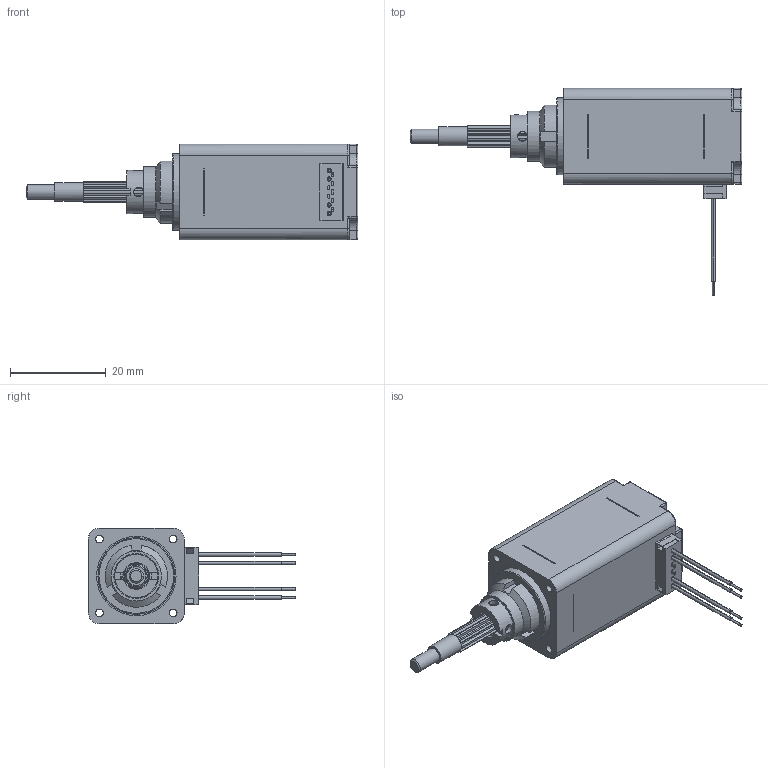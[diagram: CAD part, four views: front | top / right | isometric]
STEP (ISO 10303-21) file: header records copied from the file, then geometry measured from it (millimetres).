
FILE_DESCRIPTION( ('This file contains a STEP AP42 implementation' ,'as created by ZW3D STEP Interface translator.' ,'') ,'2;1' );
FILE_NAME( '21CC4X-XX-XXX-301.stp' ,'251231.142235', (''), ('ZWCAD Software Co.'), 'Version 1.0', 'ZW3D to STEP translator', '' );
FILE_SCHEMA(('AUTOMOTIVE_DESIGN { 1 0 10303 214 1 1 1 1 }'));
Length unit declared in the file: millimetre
Products named in the file (1): 0
Bounding box: 69.28 x 43.25 x 20 mm (x, y, z)
Volume: 430.5 mm3; surface area: 10270.8 mm2
Topology: 2 solids, 3 shells, 932 faces, 2653 edges, 1706 vertices
Faces by surface type: plane 590, cylinder 276, bspline 43, cone 19, torus 4
Full cylindrical faces by diameter (mm): 0.67 x8, 1.6 x4, 2 x5, 2.2 x4, 2.3 x1, 3 x1, 3.56 x1, 3.96 x1, 4.05 x1, 5.5 x1, 5.6 x1, 8 x1, 9 x3, 9.4 x1, 10.45 x1, 12.24 x1, 16 x1, 16.6 x1, 16.708 x1
Entity records: 32808 total; most frequent: CARTESIAN_POINT 7228, ORIENTED_EDGE 5286, DIRECTION 4999, EDGE_CURVE 2646, VECTOR 1819, LINE 1819, VERTEX_POINT 1706, AXIS2_PLACEMENT_3D 1590
